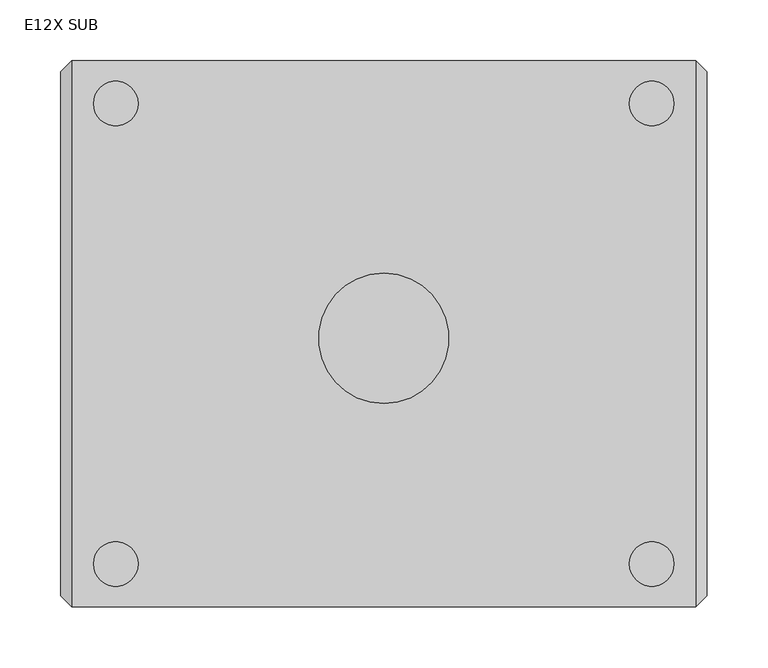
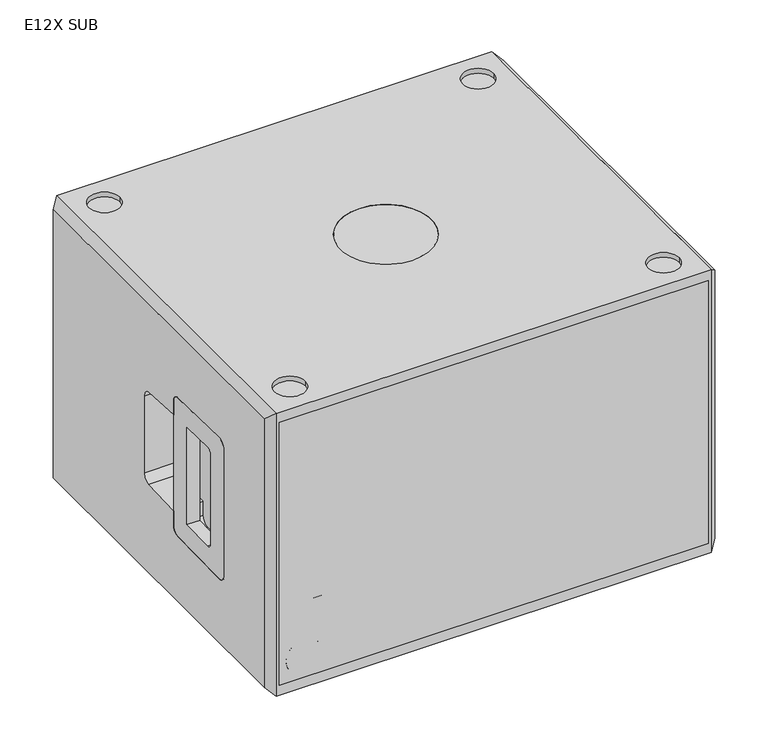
"""IFC4 building model written with IfcOpenShell, lengths in millimetres: proxy geometry, d&b E-Series E12X Subwoofer : E12X SUB."""

from ifc_helpers import new_model, si_unit, point, frame, frame_2d, origin, place, context, project, spatial, polyline, circle_curve, trimmed, segment, composite_curve, outline, extrude, faceted_brep, source, transform, mapped, element, save
from ifc_brep_helpers import plane_surface, revolved_surface, advanced_brep


def e12x_sub_e6f610f2(model_context):
    return source(origin(), model_context, "Body", "SolidModel", [
        extrude(outline(polyline([(252.5, -224.0), (-252.5, -224.0), (-252.5, -209.0), (252.5, -209.0), (252.5, -224.0)])), frame((0.0, 0.0, -163.5), z_axis=(0.0, 0.0, 1.0), x_axis=(1.0, 0.0, 0.0)), (0.0, 0.0, 1.0), 326.9692499),
        extrude(outline(composite_curve([segment(trimmed(circle_curve(frame_2d((-220.0, 189.0)), 18.25), [point((-201.75, 189.0))], [point((-238.25, 189.0))], False, "CARTESIAN"), True, "CONTINUOUS"), segment(trimmed(circle_curve(frame_2d((-220.0, 189.0)), 18.25), [point((-238.25, 189.0))], [point((-201.75, 189.0))], False, "CARTESIAN"), True, "CONTINUOUS")], self_intersect=False)), frame((0.0, 0.0, -182.0), z_axis=(0.0, 0.0, 1.0), x_axis=(1.0, 0.0, 0.0)), (0.0, 0.0, 1.0), 6.0),
        extrude(outline(composite_curve([segment(trimmed(circle_curve(frame_2d((220.0, 189.0)), 18.25), [point((238.25, 189.0))], [point((201.75, 189.0))], False, "CARTESIAN"), True, "CONTINUOUS"), segment(trimmed(circle_curve(frame_2d((220.0, 189.0)), 18.25), [point((201.75, 189.0))], [point((238.25, 189.0))], False, "CARTESIAN"), True, "CONTINUOUS")], self_intersect=False)), frame((0.0, 0.0, -182.0), z_axis=(0.0, 0.0, 1.0), x_axis=(1.0, 0.0, 0.0)), (0.0, 0.0, 1.0), 6.0),
        extrude(outline(composite_curve([segment(trimmed(circle_curve(frame_2d((-220.0, -189.0)), 18.25), [point((-201.75, -189.0))], [point((-238.25, -189.0))], False, "CARTESIAN"), True, "CONTINUOUS"), segment(trimmed(circle_curve(frame_2d((-220.0, -189.0)), 18.25), [point((-238.25, -189.0))], [point((-201.75, -189.0))], False, "CARTESIAN"), True, "CONTINUOUS")], self_intersect=False)), frame((0.0, 0.0, -182.0), z_axis=(0.0, 0.0, 1.0), x_axis=(1.0, 0.0, 0.0)), (0.0, 0.0, 1.0), 6.0),
        extrude(outline(composite_curve([segment(trimmed(circle_curve(frame_2d((220.0, -189.0)), 18.25), [point((238.25, -189.0))], [point((201.75, -189.0))], False, "CARTESIAN"), True, "CONTINUOUS"), segment(trimmed(circle_curve(frame_2d((220.0, -189.0)), 18.25), [point((201.75, -189.0))], [point((238.25, -189.0))], False, "CARTESIAN"), True, "CONTINUOUS")], self_intersect=False)), frame((0.0, 0.0, -182.0), z_axis=(0.0, 0.0, 1.0), x_axis=(1.0, 0.0, 0.0)), (0.0, 0.0, 1.0), 6.0),
        extrude(outline(polyline([(-203.4285714, -224.0), (-244.9285714, -224.0), (-244.9285714, -219.0), (-203.4285714, -219.0), (-203.4285714, -224.0)])), frame((0.0, 0.0, -110.0), z_axis=(0.0, 0.0, 1.0), x_axis=(1.0, 0.0, 0.0)), (0.0, 0.0, 1.0), 41.5),
        extrude(outline(polyline([(-156.0, -224.0), (-197.5, -224.0), (-197.5, -219.0), (-156.0, -219.0), (-156.0, -224.0)])), frame((0.0, 0.0, -110.0), z_axis=(0.0, 0.0, 1.0), x_axis=(1.0, 0.0, 0.0)), (0.0, 0.0, 1.0), 41.5),
        extrude(outline(polyline([(-156.0, -224.0), (-197.5, -224.0), (-197.5, -219.0), (-156.0, -219.0), (-156.0, -224.0)])), frame((0.0, 0.0, -157.4285714), z_axis=(0.0, 0.0, 1.0), x_axis=(1.0, 0.0, 0.0)), (0.0, 0.0, 1.0), 41.5),
        extrude(outline(composite_curve([segment(trimmed(circle_curve(frame_2d((-136.6785714, -224.1785714)), 20.75), [point((-136.6785714, -244.9285714))], [point((-136.6785714, -203.4285714))], False, "CARTESIAN"), True, "CONTINUOUS"), segment(trimmed(circle_curve(frame_2d((-136.6785714, -224.1785714)), 20.75), [point((-136.6785714, -203.4285714))], [point((-136.6785714, -244.9285714))], False, "CARTESIAN"), True, "CONTINUOUS")], self_intersect=False)), frame((0.0, -224.0, 0.0), z_axis=(0.0, 1.0, 0.0), x_axis=(0.0, 0.0, 1.0)), (0.0, 0.0, 1.0), 5.0),
        advanced_brep(
        [(-265.0, -215.0, 167.0), (-265.0, 215.0, 167.0), (-265.0, 215.0, -167.0), (-265.0, -215.0, -167.0), (-265.0, -38.6374756, 86.3580413), (-265.0, -123.126422, 87.9753483), (-265.0, -132.108627, 78.9753659), (-265.0, -132.108627, -78.980039), (-265.0, -123.1027014, -88.0031441), (-265.0, -38.7111424, -86.3837349), (-265.0, -30.0088186, -77.3689221), (-265.0, -30.0088186, -59.9657466), (-265.0, 20.465242, -57.0368849), (-265.0, 28.8293183, -48.058974), (-265.0, 28.8293183, 48.0594598), (-265.0, 20.4659272, 57.0366233), (-265.0, -29.9996908, 59.9650374), (-265.0, -29.9996908, 77.3653331), (-256.0, -224.0, -176.0), (-256.0, -224.0, 176.0), (-256.0, 224.0, -176.0), (-256.0, 224.0, 176.0), (-230.0, -38.6374756, 86.3580413), (-230.0, -29.9996908, 77.3653331), (-230.0, -29.9996908, 59.9650374), (-230.0, 20.4659272, 57.0366231), (-230.0, 28.8293183, 48.0594598), (-230.0, 28.8293183, -48.058974), (-230.0, 20.465242, -57.0368847), (-230.0, -30.0088186, -59.9657466), (-230.0, -30.0088186, -77.3689221), (-230.0, -38.7111424, -86.3837349), (-230.0, -123.1027014, -88.003144), (-230.0, -132.108627, -78.980039), (-230.0, -132.108627, 78.9753659), (-230.0, -123.126422, 87.9753483), (256.0, 224.0, 176.0), (256.0, -224.0, 176.0), (0.0, 49.7080204, 176.0), (0.0, -57.2080204, 176.0), (-238.25, 189.0, 176.0), (-201.75, 189.0, 176.0), (201.75, 189.0, 176.0), (238.25, 189.0, 176.0), (-238.25, -189.0, 176.0), (-201.75, -189.0, 176.0), (201.75, -189.0, 176.0), (238.25, -189.0, 176.0), (256.0, 224.0, -176.0), (256.0, -224.0, -176.0), (124.0, 224.0, -34.0), (116.0, 224.0, -26.0), (64.0, 224.0, -26.0), (56.0, 224.0, -34.0), (56.0, 224.0, -126.0), (64.0, 224.0, -134.0), (116.0, 224.0, -134.0), (124.0, 224.0, -126.0), (-64.0, 224.0, -26.0), (-116.0, 224.0, -26.0), (-124.0, 224.0, -34.0), (-124.0, 224.0, -126.0), (-116.0, 224.0, -134.0), (-64.0, 224.0, -134.0), (-56.0, 224.0, -126.0), (-56.0, 224.0, -34.0), (-252.5, -224.0, 163.4692499), (252.5, -224.0, 163.4692499), (252.5, -224.0, -163.5), (-252.5, -224.0, -163.5), (252.5, -209.0, 163.4692499), (-252.5, -209.0, 163.4692499), (-252.5, -209.0, -163.5), (252.5, -209.0, -163.5), (0.0, -57.2080204, 171.0), (0.0, 49.7080204, 171.0), (-201.75, 189.0, 170.0), (-238.25, 189.0, 170.0), (238.25, 189.0, 170.0), (201.75, 189.0, 170.0), (-201.75, -189.0, 170.0), (-238.25, -189.0, 170.0), (238.25, -189.0, 170.0), (201.75, -189.0, 170.0), (116.0, 212.0, -26.0), (124.0, 212.0, -34.0), (124.0, 212.0, -126.0), (116.0, 212.0, -134.0), (64.0, 212.0, -134.0), (56.0, 212.0, -126.0), (56.0, 212.0, -34.0), (64.0, 212.0, -26.0), (-116.0, 212.0, -26.0), (-64.0, 212.0, -26.0), (-56.0, 212.0, -34.0), (-56.0, 212.0, -126.0), (-64.0, 212.0, -134.0), (-116.0, 212.0, -134.0), (-124.0, 212.0, -126.0), (-124.0, 212.0, -34.0)],
        [
            (0, 1),
            (1, 2),
            (2, 3),
            (3, 0),
            (4, 5, circle_curve(frame((-265.0, -119.17, -1913.0207404), z_axis=(1.0, 0.0, 0.0), x_axis=(0.0, 1.0, 0.0)), 2001.0)),
            (5, 6, circle_curve(frame((-265.0, -123.108627, 78.9753659), z_axis=(1.0, 0.0, 0.0), x_axis=(0.0, 1.0, 0.0)), 9.0)),
            (6, 7),
            (7, 8, circle_curve(frame((-265.0, -123.0855055, -78.980039), z_axis=(1.0, 0.0, 0.0), x_axis=(0.0, 1.0, 0.0)), 9.0231215)),
            (8, 9, circle_curve(frame((-265.0, -119.2892511, 1913.0080485), z_axis=(1.0, 0.0, 0.0), x_axis=(0.0, 1.0, 0.0)), 2001.0148263)),
            (9, 10, circle_curve(frame((-265.0, -39.0292418, -77.3689221), z_axis=(1.0, 0.0, 0.0), x_axis=(0.0, 1.0, 0.0)), 9.0204232)),
            (10, 11),
            (11, 12, circle_curve(frame((-265.0, -119.1734208, 1913.0205662), z_axis=(1.0, 0.0, 0.0), x_axis=(0.0, 1.0, 0.0)), 1975.0000802)),
            (12, 13, circle_curve(frame((-265.0, 19.8288831, -48.058974), z_axis=(1.0, 0.0, 0.0), x_axis=(0.0, 1.0, 0.0)), 9.0004352)),
            (13, 14),
            (14, 15, circle_curve(frame((-265.0, 19.8296331, 48.0594598), z_axis=(1.0, 0.0, 0.0), x_axis=(0.0, 1.0, 0.0)), 8.9996852)),
            (15, 16, circle_curve(frame((-265.0, -119.1701594, -1913.0208287), z_axis=(1.0, 0.0, 0.0), x_axis=(0.0, 1.0, 0.0)), 1974.9998987)),
            (16, 17),
            (17, 4, circle_curve(frame((-265.0, -38.9996908, 77.3653331), z_axis=(1.0, 0.0, 0.0), x_axis=(0.0, 1.0, 0.0)), 9.0)),
            (3, 18),
            (18, 19),
            (19, 0),
            (2, 20),
            (20, 18),
            (1, 21),
            (21, 20),
            (19, 21),
            (22, 23, circle_curve(frame((-230.0, -38.9996908, 77.3653331), z_axis=(-1.0, 0.0, 0.0), x_axis=(0.0, 1.0, 0.0)), 9.0)),
            (23, 24),
            (24, 25, circle_curve(frame((-230.0, -119.1701594, -1913.0208287), z_axis=(-1.0, 0.0, 0.0), x_axis=(0.0, 1.0, 0.0)), 1974.9998987)),
            (25, 26, circle_curve(frame((-230.0, 19.8296331, 48.0594598), z_axis=(-1.0, 0.0, 0.0), x_axis=(0.0, 1.0, 0.0)), 8.9996852)),
            (26, 27),
            (27, 28, circle_curve(frame((-230.0, 19.8288831, -48.058974), z_axis=(-1.0, 0.0, 0.0), x_axis=(0.0, 1.0, 0.0)), 9.0004352)),
            (28, 29, circle_curve(frame((-230.0, -119.1734208, 1913.0205662), z_axis=(-1.0, 0.0, 0.0), x_axis=(0.0, 1.0, 0.0)), 1975.0000802)),
            (29, 30),
            (30, 31, circle_curve(frame((-230.0, -39.0292418, -77.3689221), z_axis=(-1.0, 0.0, 0.0), x_axis=(0.0, 1.0, 0.0)), 9.0204232)),
            (31, 32, circle_curve(frame((-230.0, -119.2892511, 1913.0080485), z_axis=(-1.0, 0.0, 0.0), x_axis=(0.0, 1.0, 0.0)), 2001.0148263)),
            (32, 33, circle_curve(frame((-230.0, -123.0855055, -78.980039), z_axis=(-1.0, 0.0, 0.0), x_axis=(0.0, 1.0, 0.0)), 9.0231215)),
            (33, 34),
            (34, 35, circle_curve(frame((-230.0, -123.108627, 78.9753659), z_axis=(-1.0, 0.0, 0.0), x_axis=(0.0, 1.0, 0.0)), 9.0)),
            (35, 22, circle_curve(frame((-230.0, -119.17, -1913.0207404), z_axis=(-1.0, 0.0, 0.0), x_axis=(0.0, 1.0, 0.0)), 2001.0)),
            (35, 5),
            (4, 22),
            (34, 6),
            (33, 7),
            (32, 8),
            (31, 9),
            (30, 10),
            (29, 11),
            (28, 12),
            (27, 13),
            (26, 14),
            (25, 15),
            (24, 16),
            (23, 17),
            (36, 21),
            (19, 37),
            (37, 36),
            (38, 39, circle_curve(frame((0.0, -3.75, 176.0), z_axis=(0.0, 0.0, -1.0), x_axis=(0.0, 1.0, 0.0)), 53.4580204)),
            (39, 38, circle_curve(frame((0.0, -3.75, 176.0), z_axis=(0.0, 0.0, -1.0), x_axis=(0.0, 1.0, 0.0)), 53.4580204)),
            (40, 41, circle_curve(frame((-220.0, 189.0, 176.0), z_axis=(0.0, 0.0, -1.0), x_axis=(-1.0, 0.0, 0.0)), 18.25)),
            (41, 40, circle_curve(frame((-220.0, 189.0, 176.0), z_axis=(0.0, 0.0, -1.0), x_axis=(-1.0, 0.0, 0.0)), 18.25)),
            (42, 43, circle_curve(frame((220.0, 189.0, 176.0), z_axis=(0.0, 0.0, -1.0), x_axis=(-1.0, 0.0, 0.0)), 18.25)),
            (43, 42, circle_curve(frame((220.0, 189.0, 176.0), z_axis=(0.0, 0.0, -1.0), x_axis=(-1.0, 0.0, 0.0)), 18.25)),
            (44, 45, circle_curve(frame((-220.0, -189.0, 176.0), z_axis=(0.0, 0.0, -1.0), x_axis=(-1.0, 0.0, 0.0)), 18.25)),
            (45, 44, circle_curve(frame((-220.0, -189.0, 176.0), z_axis=(0.0, 0.0, -1.0), x_axis=(-1.0, 0.0, 0.0)), 18.25)),
            (46, 47, circle_curve(frame((220.0, -189.0, 176.0), z_axis=(0.0, 0.0, -1.0), x_axis=(-1.0, 0.0, 0.0)), 18.25)),
            (47, 46, circle_curve(frame((220.0, -189.0, 176.0), z_axis=(0.0, 0.0, -1.0), x_axis=(-1.0, 0.0, 0.0)), 18.25)),
            (48, 49),
            (49, 18),
            (20, 48),
            (36, 48),
            (50, 51, circle_curve(frame((116.0, 224.0, -34.0), z_axis=(0.0, -1.0, 0.0), x_axis=(-1.0, 0.0, 0.0)), 8.0)),
            (51, 52),
            (52, 53, circle_curve(frame((64.0, 224.0, -34.0), z_axis=(0.0, -1.0, 0.0), x_axis=(-1.0, 0.0, 0.0)), 8.0)),
            (53, 54),
            (54, 55, circle_curve(frame((64.0, 224.0, -126.0), z_axis=(0.0, -1.0, 0.0), x_axis=(-1.0, 0.0, 0.0)), 8.0)),
            (55, 56),
            (56, 57, circle_curve(frame((116.0, 224.0, -126.0), z_axis=(0.0, -1.0, 0.0), x_axis=(-1.0, 0.0, 0.0)), 8.0)),
            (57, 50),
            (58, 59),
            (59, 60, circle_curve(frame((-116.0, 224.0, -34.0), z_axis=(0.0, -1.0, 0.0), x_axis=(-1.0, 0.0, 0.0)), 8.0)),
            (60, 61),
            (61, 62, circle_curve(frame((-116.0, 224.0, -126.0), z_axis=(0.0, -1.0, 0.0), x_axis=(-1.0, 0.0, 0.0)), 8.0)),
            (62, 63),
            (63, 64, circle_curve(frame((-64.0, 224.0, -126.0), z_axis=(0.0, -1.0, 0.0), x_axis=(-1.0, 0.0, 0.0)), 8.0)),
            (64, 65),
            (65, 58, circle_curve(frame((-64.0, 224.0, -34.0), z_axis=(0.0, -1.0, 0.0), x_axis=(-1.0, 0.0, 0.0)), 8.0)),
            (49, 37),
            (66, 67),
            (67, 68),
            (68, 69),
            (69, 66),
            (70, 71),
            (71, 72),
            (72, 73),
            (73, 70),
            (70, 67),
            (66, 71),
            (69, 72),
            (68, 73),
            (74, 75, circle_curve(frame((0.0, -3.75, 171.0), z_axis=(0.0, 0.0, 1.0), x_axis=(0.0, 1.0, 0.0)), 53.4580204)),
            (75, 74, circle_curve(frame((0.0, -3.75, 171.0), z_axis=(0.0, 0.0, 1.0), x_axis=(0.0, 1.0, 0.0)), 53.4580204)),
            (74, 39),
            (38, 75),
            (76, 77, circle_curve(frame((-220.0, 189.0, 170.0), z_axis=(0.0, 0.0, 1.0), x_axis=(-1.0, 0.0, 0.0)), 18.25)),
            (77, 76, circle_curve(frame((-220.0, 189.0, 170.0), z_axis=(0.0, 0.0, 1.0), x_axis=(-1.0, 0.0, 0.0)), 18.25)),
            (78, 79, circle_curve(frame((220.0, 189.0, 170.0), z_axis=(0.0, 0.0, 1.0), x_axis=(-1.0, 0.0, 0.0)), 18.25)),
            (79, 78, circle_curve(frame((220.0, 189.0, 170.0), z_axis=(0.0, 0.0, 1.0), x_axis=(-1.0, 0.0, 0.0)), 18.25)),
            (80, 81, circle_curve(frame((-220.0, -189.0, 170.0), z_axis=(0.0, 0.0, 1.0), x_axis=(-1.0, 0.0, 0.0)), 18.25)),
            (81, 80, circle_curve(frame((-220.0, -189.0, 170.0), z_axis=(0.0, 0.0, 1.0), x_axis=(-1.0, 0.0, 0.0)), 18.25)),
            (82, 83, circle_curve(frame((220.0, -189.0, 170.0), z_axis=(0.0, 0.0, 1.0), x_axis=(-1.0, 0.0, 0.0)), 18.25)),
            (83, 82, circle_curve(frame((220.0, -189.0, 170.0), z_axis=(0.0, 0.0, 1.0), x_axis=(-1.0, 0.0, 0.0)), 18.25)),
            (76, 41),
            (40, 77),
            (78, 43),
            (42, 79),
            (80, 45),
            (44, 81),
            (82, 47),
            (46, 83),
            (84, 85, circle_curve(frame((116.0, 212.0, -34.0), z_axis=(0.0, 1.0, 0.0), x_axis=(-1.0, 0.0, 0.0)), 8.0)),
            (85, 86),
            (86, 87, circle_curve(frame((116.0, 212.0, -126.0), z_axis=(0.0, 1.0, 0.0), x_axis=(-1.0, 0.0, 0.0)), 8.0)),
            (87, 88),
            (88, 89, circle_curve(frame((64.0, 212.0, -126.0), z_axis=(0.0, 1.0, 0.0), x_axis=(-1.0, 0.0, 0.0)), 8.0)),
            (89, 90),
            (90, 91, circle_curve(frame((64.0, 212.0, -34.0), z_axis=(0.0, 1.0, 0.0), x_axis=(-1.0, 0.0, 0.0)), 8.0)),
            (91, 84),
            (92, 93),
            (93, 94, circle_curve(frame((-64.0, 212.0, -34.0), z_axis=(0.0, 1.0, 0.0), x_axis=(-1.0, 0.0, 0.0)), 8.0)),
            (94, 95),
            (95, 96, circle_curve(frame((-64.0, 212.0, -126.0), z_axis=(0.0, 1.0, 0.0), x_axis=(-1.0, 0.0, 0.0)), 8.0)),
            (96, 97),
            (97, 98, circle_curve(frame((-116.0, 212.0, -126.0), z_axis=(0.0, 1.0, 0.0), x_axis=(-1.0, 0.0, 0.0)), 8.0)),
            (98, 99),
            (99, 92, circle_curve(frame((-116.0, 212.0, -34.0), z_axis=(0.0, 1.0, 0.0), x_axis=(-1.0, 0.0, 0.0)), 8.0)),
            (84, 51),
            (50, 85),
            (57, 86),
            (56, 87),
            (55, 88),
            (54, 89),
            (53, 90),
            (52, 91),
            (92, 59),
            (58, 93),
            (65, 94),
            (64, 95),
            (63, 96),
            (62, 97),
            (61, 98),
            (60, 99),
        ],
        [
            plane_surface(frame((-265.0, 0.0, 0.0), z_axis=(-1.0, 0.0, 0.0), x_axis=(0.0, 0.0, 1.0))),
            plane_surface(frame((-265.0, -215.0, 0.0), z_axis=(-0.7071067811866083, -0.7071067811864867, 0.0), x_axis=(0.0, 0.0, -1.0))),
            plane_surface(frame((-265.0, 0.0, -167.0), z_axis=(-0.7071067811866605, 0.0, -0.7071067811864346), x_axis=(0.0, 1.0, 0.0))),
            plane_surface(frame((-265.0, 215.0, 0.0), z_axis=(-0.7071067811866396, 0.7071067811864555, 0.0), x_axis=(0.0, 0.0, 1.0))),
            plane_surface(frame((-265.0, 0.0, 167.0), z_axis=(-0.7071067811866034, 0.0, 0.7071067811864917), x_axis=(0.0, -1.0, 0.0))),
            plane_surface(frame((-230.0, 1881.83, -1913.0207404), z_axis=(-1.0, 0.0, 0.0), x_axis=(0.0, 0.0, 1.0))),
            revolved_surface(polyline([(-230.0, 1881.83, -1913.0207404), (-265.0, 1881.83, -1913.0207404)]), (-265.0, -119.17, -1913.0207404), (1.0, 0.0, 0.0)),
            revolved_surface(polyline([(-230.0, -114.108627, 78.9753659), (-265.0, -114.108627, 78.9753659)]), (-265.0, -123.108627, 78.9753659), (1.0, 0.0, 0.0)),
            plane_surface(frame((-230.0, -132.108627, 78.9753659), z_axis=(0.0, 1.0, 0.0), x_axis=(-1.0, 0.0, 0.0))),
            revolved_surface(polyline([(-230.0, -114.062384, -78.980039), (-265.0, -114.062384, -78.980039)]), (-265.0, -123.0855055, -78.980039), (1.0, 0.0, 0.0)),
            revolved_surface(polyline([(-230.0, 1881.7255752, 1913.0080485), (-265.0, 1881.7255752, 1913.0080485)]), (-265.0, -119.2892511, 1913.0080485), (1.0, 0.0, 0.0)),
            revolved_surface(polyline([(-230.0, -30.0088186, -77.3689221), (-265.0, -30.0088186, -77.3689221)]), (-265.0, -39.0292418, -77.3689221), (1.0, 0.0, 0.0)),
            plane_surface(frame((-230.0, -30.0088186, -77.3689221), z_axis=(0.0, -1.0, 0.0), x_axis=(-1.0, 0.0, 0.0))),
            revolved_surface(polyline([(-230.0, 1855.8266594, 1913.0205662), (-265.0, 1855.8266594, 1913.0205662)]), (-265.0, -119.1734208, 1913.0205662), (1.0, 0.0, 0.0)),
            revolved_surface(polyline([(-230.0, 28.829318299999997, -48.058974), (-265.0, 28.829318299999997, -48.058974)]), (-265.0, 19.8288831, -48.058974), (1.0, 0.0, 0.0)),
            plane_surface(frame((-230.0, 28.8293183, -48.058974), z_axis=(0.0, -1.0, 0.0), x_axis=(-1.0, 0.0, 0.0))),
            revolved_surface(polyline([(-230.0, 28.829318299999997, 48.0594598), (-265.0, 28.829318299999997, 48.0594598)]), (-265.0, 19.8296331, 48.0594598), (1.0, 0.0, 0.0)),
            revolved_surface(polyline([(-230.0, 1855.8297392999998, -1913.0208287), (-265.0, 1855.8297392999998, -1913.0208287)]), (-265.0, -119.1701594, -1913.0208287), (1.0, 0.0, 0.0)),
            plane_surface(frame((-230.0, -29.9996908, 59.9650374), z_axis=(0.0, -1.0, 0.0), x_axis=(-1.0, 0.0, 0.0))),
            revolved_surface(polyline([(-230.0, -29.999690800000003, 77.3653331), (-265.0, -29.999690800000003, 77.3653331)]), (-265.0, -38.9996908, 77.3653331), (1.0, 0.0, 0.0)),
            plane_surface(frame((-256.0, 224.0, 176.0), z_axis=(0.0, 0.0, 1.0), x_axis=(-1.0, 0.0, 0.0))),
            plane_surface(frame((-256.0, 224.0, -176.0), z_axis=(0.0, 0.0, -1.0), x_axis=(1.0, 0.0, 0.0))),
            plane_surface(frame((256.0, 224.0, 176.0), z_axis=(0.0, 1.0, 0.0), x_axis=(0.0, 0.0, -1.0))),
            plane_surface(frame((-256.0, -224.0, 176.0), z_axis=(0.0, -1.0, 0.0), x_axis=(0.0, 0.0, -1.0))),
            plane_surface(frame((256.0, -224.0, 176.0), z_axis=(1.0, 0.0, 0.0), x_axis=(0.0, 0.0, -1.0))),
            plane_surface(frame((-252.5, -209.0, 163.4692499), z_axis=(0.0, -1.0, 0.0), x_axis=(1.0, 0.0, 0.0))),
            plane_surface(frame((252.5, -224.0, 163.4692499), z_axis=(0.0, 0.0, -1.0), x_axis=(0.0, 1.0, 0.0))),
            plane_surface(frame((-252.5, -224.0, 163.4692499), z_axis=(1.0, 0.0, 0.0), x_axis=(0.0, 1.0, 0.0))),
            plane_surface(frame((-252.5, -224.0, -163.5), z_axis=(0.0, 0.0, 1.0), x_axis=(0.0, 1.0, 0.0))),
            plane_surface(frame((252.5, -224.0, -163.5), z_axis=(-1.0, 0.0, 0.0), x_axis=(0.0, 1.0, 0.0))),
            plane_surface(frame((0.0, 49.7080204, 171.0), z_axis=(0.0, 0.0, 1.0), x_axis=(1.0, 0.0, 0.0))),
            revolved_surface(polyline([(0.0, 49.7080204, 176.0), (0.0, 49.7080204, 171.0)]), (0.0, -3.75, 171.0), (0.0, 0.0, 1.0)),
            plane_surface(frame((-238.25, 189.0, 170.0), z_axis=(0.0, 0.0, 1.0), x_axis=(0.0, 1.0, 0.0))),
            revolved_surface(polyline([(-238.25, 189.0, 176.0), (-238.25, 189.0, 170.0)]), (-220.0, 189.0, 170.0), (0.0, 0.0, 1.0)),
            revolved_surface(polyline([(201.75, 189.0, 176.0), (201.75, 189.0, 170.0)]), (220.0, 189.0, 671.0), (0.0, 0.0, 1.0)),
            revolved_surface(polyline([(-238.25, -189.0, 176.0), (-238.25, -189.0, 170.0)]), (-220.0, -189.0, 671.0), (0.0, 0.0, 1.0)),
            revolved_surface(polyline([(201.75, -189.0, 176.0), (201.75, -189.0, 170.0)]), (220.0, -189.0, 671.0), (0.0, 0.0, 1.0)),
            plane_surface(frame((108.0, 212.0, -34.0), z_axis=(0.0, 1.0, 0.0), x_axis=(0.0, 0.0, -1.0))),
            revolved_surface(polyline([(108.0, 224.0, -34.0), (108.0, 212.0, -34.0)]), (116.0, 212.0, -34.0), (0.0, 1.0, 0.0)),
            plane_surface(frame((124.0, 224.0, -34.0), z_axis=(-1.0, 0.0, 0.0), x_axis=(0.0, -1.0, 0.0))),
            revolved_surface(polyline([(108.0, 224.0, -126.0), (108.0, 212.0, -126.0)]), (116.0, 212.0, -126.0), (0.0, 1.0, 0.0)),
            plane_surface(frame((116.0, 224.0, -134.0), z_axis=(0.0, 0.0, 1.0), x_axis=(0.0, -1.0, 0.0))),
            revolved_surface(polyline([(56.0, 224.0, -126.0), (56.0, 212.0, -126.0)]), (64.0, 212.0, -126.0), (0.0, 1.0, 0.0)),
            plane_surface(frame((56.0, 224.0, -126.0), z_axis=(1.0, 0.0, 0.0), x_axis=(0.0, -1.0, 0.0))),
            revolved_surface(polyline([(56.0, 224.0, -34.0), (56.0, 212.0, -34.0)]), (64.0, 212.0, -34.0), (0.0, 1.0, 0.0)),
            plane_surface(frame((64.0, 224.0, -26.0), z_axis=(0.0, 0.0, -1.0), x_axis=(0.0, -1.0, 0.0))),
            plane_surface(frame((-116.0, 224.0, -26.0), z_axis=(0.0, 0.0, -1.0), x_axis=(0.0, -1.0, 0.0))),
            revolved_surface(polyline([(-72.0, 224.0, -34.0), (-72.0, 212.0, -34.0)]), (-64.0, 224.0, -34.0), (0.0, 1.0, 0.0)),
            plane_surface(frame((-56.0, 224.0, -34.0), z_axis=(-1.0, 0.0, 0.0), x_axis=(0.0, -1.0, 0.0))),
            revolved_surface(polyline([(-72.0, 224.0, -126.0), (-72.0, 212.0, -126.0)]), (-64.0, 224.0, -126.0), (0.0, 1.0, 0.0)),
            plane_surface(frame((-64.0, 224.0, -134.0), z_axis=(0.0, 0.0, 1.0), x_axis=(0.0, -1.0, 0.0))),
            revolved_surface(polyline([(-124.0, 224.0, -126.0), (-124.0, 212.0, -126.0)]), (-116.0, 224.0, -126.0), (0.0, 1.0, 0.0)),
            plane_surface(frame((-124.0, 224.0, -126.0), z_axis=(1.0, 0.0, 0.0), x_axis=(0.0, -1.0, 0.0))),
            revolved_surface(polyline([(-124.0, 224.0, -34.0), (-124.0, 212.0, -34.0)]), (-116.0, 224.0, -34.0), (0.0, 1.0, 0.0)),
        ],
        [
            (0, [[1, 2, 3, 4], [5, 6, 7, 8, 9, 10, 11, 12, 13, 14, 15, 16, 17, 18]]),
            (1, [[-4, 19, 20, 21]]),
            (2, [[-3, 22, 23, -19]]),
            (3, [[-2, 24, 25, -22]]),
            (4, [[-1, -21, 26, -24]]),
            (5, [[27, 28, 29, 30, 31, 32, 33, 34, 35, 36, 37, 38, 39, 40]]),
            (6, [[-40, 41, -5, 42]]),
            (7, [[-39, 43, -6, -41]]),
            (8, [[-38, 44, -7, -43]]),
            (9, [[-37, 45, -8, -44]]),
            (10, [[-36, 46, -9, -45]]),
            (11, [[-35, 47, -10, -46]]),
            (12, [[-34, 48, -11, -47]]),
            (13, [[-33, 49, -12, -48]]),
            (14, [[-32, 50, -13, -49]]),
            (15, [[-31, 51, -14, -50]]),
            (16, [[-30, 52, -15, -51]]),
            (17, [[-29, 53, -16, -52]]),
            (18, [[-28, 54, -17, -53]]),
            (19, [[-27, -42, -18, -54]]),
            (20, [[55, -26, 56, 57], [58, 59], [60, 61], [62, 63], [64, 65], [66, 67]]),
            (21, [[68, 69, -23, 70]]),
            (22, [[-55, 71, -70, -25], [72, 73, 74, 75, 76, 77, 78, 79], [80, 81, 82, 83, 84, 85, 86, 87]]),
            (23, [[-56, -20, -69, 88], [89, 90, 91, 92]]),
            (24, [[-57, -88, -68, -71]]),
            (25, [[93, 94, 95, 96]]),
            (26, [[-93, 97, -89, 98]]),
            (27, [[-94, -98, -92, 99]]),
            (28, [[-95, -99, -91, 100]]),
            (29, [[-96, -100, -90, -97]]),
            (30, [[101, 102]]),
            (31, [[-101, 103, -58, 104]]),
            (31, [[-102, -104, -59, -103]]),
            (32, [[105, 106]]),
            (32, [[107, 108]]),
            (32, [[109, 110]]),
            (32, [[111, 112]]),
            (33, [[-105, 113, -60, 114]]),
            (33, [[-106, -114, -61, -113]]),
            (34, [[-107, 115, -62, 116]]),
            (34, [[-108, -116, -63, -115]]),
            (35, [[-109, 117, -64, 118]]),
            (35, [[-110, -118, -65, -117]]),
            (36, [[-111, 119, -66, 120]]),
            (36, [[-112, -120, -67, -119]]),
            (37, [[121, 122, 123, 124, 125, 126, 127, 128]]),
            (37, [[129, 130, 131, 132, 133, 134, 135, 136]]),
            (38, [[-121, 137, -72, 138]]),
            (39, [[-122, -138, -79, 139]]),
            (40, [[-123, -139, -78, 140]]),
            (41, [[-124, -140, -77, 141]]),
            (42, [[-125, -141, -76, 142]]),
            (43, [[-126, -142, -75, 143]]),
            (44, [[-127, -143, -74, 144]]),
            (45, [[-128, -144, -73, -137]]),
            (46, [[-129, 145, -80, 146]]),
            (47, [[-130, -146, -87, 147]]),
            (48, [[-131, -147, -86, 148]]),
            (49, [[-132, -148, -85, 149]]),
            (50, [[-133, -149, -84, 150]]),
            (51, [[-134, -150, -83, 151]]),
            (52, [[-135, -151, -82, 152]]),
            (53, [[-136, -152, -81, -145]]),
        ],
    ),
        extrude(outline(composite_curve([segment(trimmed(circle_curve(frame_2d((0.0, -3.75)), 53.4580204), [point((0.0, -57.2080204))], [point((0.0, 49.7080204))], False, "CARTESIAN"), True, "CONTINUOUS"), segment(trimmed(circle_curve(frame_2d((0.0, -3.75)), 53.4580204), [point((0.0, 49.7080204))], [point((0.0, -57.2080204))], False, "CARTESIAN"), True, "CONTINUOUS")], self_intersect=False)), frame((0.0, 0.0, 171.0), z_axis=(0.0, 0.0, 1.0), x_axis=(1.0, 0.0, 0.0)), (0.0, 0.0, 1.0), 5.0),
        faceted_brep([(256.0, -224.0, 176.0), (256.0, 224.0, 176.0), (256.0, 224.0, -176.0), (256.0, -224.0, -176.0), (265.0, -215.0, 167.0), (265.0, -215.0, -167.0), (265.0, 215.0, -167.0), (265.0, 215.0, 167.0)], [[[0, 1, 2, 3]], [[4, 5, 6, 7]], [[5, 4, 0, 3]], [[6, 5, 3, 2]], [[7, 6, 2, 1]], [[4, 7, 1, 0]]]),
        extrude(outline(composite_curve([segment(trimmed(circle_curve(frame_2d((-38.9996908, 77.3653331)), 9.0), [point((-38.6374756, 86.3580413))], [point((-30.0088186, 77.7705685))], False, "CARTESIAN"), True, "CONTINUOUS"), segment(polyline([(-30.0088186, 77.7705685), (-30.0088186, -77.3689221)]), True, "CONTINUOUS"), segment(trimmed(circle_curve(frame_2d((-39.0292418, -77.3689221)), 9.0204232), [point((-30.0088186, -77.3689221))], [point((-38.7111424, -86.3837349))], False, "CARTESIAN"), True, "CONTINUOUS"), segment(trimmed(circle_curve(frame_2d((-119.2892511, 1913.0080485)), 2001.0148263), [point((-38.7111424, -86.3837349))], [point((-123.1027014, -88.003144))], False, "CARTESIAN"), True, "CONTINUOUS"), segment(trimmed(circle_curve(frame_2d((-123.0855055, -78.980039)), 9.0231215), [point((-123.1027014, -88.003144))], [point((-132.108627, -78.980039))], False, "CARTESIAN"), True, "CONTINUOUS"), segment(polyline([(-132.108627, -78.980039), (-132.108627, 78.9753659)]), True, "CONTINUOUS"), segment(trimmed(circle_curve(frame_2d((-123.108627, 78.9753659)), 9.0), [point((-132.108627, 78.9753659))], [point((-123.126422, 87.9753483))], False, "CARTESIAN"), True, "CONTINUOUS"), segment(trimmed(circle_curve(frame_2d((-119.17, -1913.0207404)), 2001.0), [point((-123.126422, 87.9753483))], [point((-38.6374756, 86.3580413))], False, "CARTESIAN"), True, "CONTINUOUS")], self_intersect=False), holes=[composite_curve([segment(trimmed(circle_curve(frame_2d((-99.5927643, 56.3047169)), 5.0), [point((-99.5430613, 61.3044698))], [point((-104.5927643, 56.3047169))], True, "CARTESIAN"), True, "CONTINUOUS"), segment(polyline([(-104.5927643, 56.3047169), (-104.5927643, -56.3047169)]), True, "CONTINUOUS"), segment(trimmed(circle_curve(frame_2d((-99.5927643, -56.3047169)), 5.0), [point((-104.5927643, -56.3047169))], [point((-99.5430613, -61.3044698))], True, "CARTESIAN"), True, "CONTINUOUS"), segment(trimmed(circle_curve(frame_2d((-119.17, 1913.0207404)), 1974.4227643), [point((-99.5430613, -61.3044698))], [point((-56.9996044, -60.4229741))], True, "CARTESIAN"), True, "CONTINUOUS"), segment(polyline([(-56.9996044, -60.4229741), (-56.9996044, 60.4229741)]), True, "CONTINUOUS"), segment(trimmed(circle_curve(frame_2d((-119.17, -1913.0207404)), 1974.4227643), [point((-56.9996044, 60.4229741))], [point((-99.5430613, 61.3044698))], True, "CARTESIAN"), True, "CONTINUOUS")], self_intersect=False)]), frame((-265.0, 0.0, 0.0), z_axis=(1.0, 0.0, 0.0), x_axis=(0.0, 1.0, 0.0)), (0.0, 0.0, 1.0), 15.0),
        extrude(outline(composite_curve([segment(trimmed(circle_curve(frame_2d((-53.919639, 90.155371)), 18.2853903), [point((-53.919639, 108.4407612))], [point((-53.919639, 71.8699807))], False, "CARTESIAN"), True, "CONTINUOUS"), segment(trimmed(circle_curve(frame_2d((-53.919639, 90.155371)), 18.2853903), [point((-53.919639, 71.8699807))], [point((-53.919639, 108.4407612))], False, "CARTESIAN"), True, "CONTINUOUS")], self_intersect=False)), frame((0.0, 212.0, 0.0), z_axis=(0.0, 1.0, 0.0), x_axis=(0.0, 0.0, 1.0)), (0.0, 0.0, 1.0), 5.0),
        extrude(outline(composite_curve([segment(trimmed(circle_curve(frame_2d((-106.080361, 90.155371)), 18.2853903), [point((-106.080361, 108.4407612))], [point((-106.080361, 71.8699807))], False, "CARTESIAN"), True, "CONTINUOUS"), segment(trimmed(circle_curve(frame_2d((-106.080361, 90.155371)), 18.2853903), [point((-106.080361, 71.8699807))], [point((-106.080361, 108.4407612))], False, "CARTESIAN"), True, "CONTINUOUS")], self_intersect=False)), frame((0.0, 212.0, 0.0), z_axis=(0.0, 1.0, 0.0), x_axis=(0.0, 0.0, 1.0)), (0.0, 0.0, 1.0), 5.0),
        extrude(outline(composite_curve([segment(polyline([(-26.0, -64.0), (-26.0, -116.0)]), True, "CONTINUOUS"), segment(trimmed(circle_curve(frame_2d((-34.0, -116.0)), 8.0), [point((-26.0, -116.0))], [point((-34.0, -124.0))], False, "CARTESIAN"), True, "CONTINUOUS"), segment(polyline([(-34.0, -124.0), (-126.0, -124.0)]), True, "CONTINUOUS"), segment(trimmed(circle_curve(frame_2d((-126.0, -116.0)), 8.0), [point((-126.0, -124.0))], [point((-134.0, -116.0))], False, "CARTESIAN"), True, "CONTINUOUS"), segment(polyline([(-134.0, -116.0), (-134.0, -64.0)]), True, "CONTINUOUS"), segment(trimmed(circle_curve(frame_2d((-126.0, -64.0)), 8.0), [point((-134.0, -64.0))], [point((-126.0, -56.0))], False, "CARTESIAN"), True, "CONTINUOUS"), segment(polyline([(-126.0, -56.0), (-34.0, -56.0)]), True, "CONTINUOUS"), segment(trimmed(circle_curve(frame_2d((-34.0, -64.0)), 8.0), [point((-34.0, -56.0))], [point((-26.0, -64.0))], False, "CARTESIAN"), True, "CONTINUOUS")], self_intersect=False)), frame((0.0, 212.0, 0.0), z_axis=(0.0, 1.0, 0.0), x_axis=(0.0, 0.0, 1.0)), (0.0, 0.0, 1.0), 12.0),
    ])


if __name__ == "__main__":
    model = new_model("IFC4")
    model_context = context("Model", 3, world=origin())
    ifc_project = project(units=[si_unit("LENGTHUNIT", "METRE", prefix="MILLI")], contexts=[model_context])
    site = spatial("IfcSite", under=ifc_project)
    building = spatial("IfcBuilding", under=site)
    placement = place(None, origin())
    e12x_sub_shape = e12x_sub_e6f610f2(model_context)
    element("IfcBuildingElementProxy", 1, Name="d&b E-Series E12X Subwoofer : E12X SUB", ObjectType="d&b E-Series E12X Subwoofer : E12X SUB", at=placement, inside=building, context=model_context, shape_type="MappedRepresentation", body=[
        mapped(e12x_sub_shape, transform((0.0, 0.0, 0.0), x_axis=(1.0, 0.0, 0.0), y_axis=(0.0, 1.0, 0.0), z_axis=(0.0, 0.0, 1.0))),
    ])
    save(model, "model.ifc")
